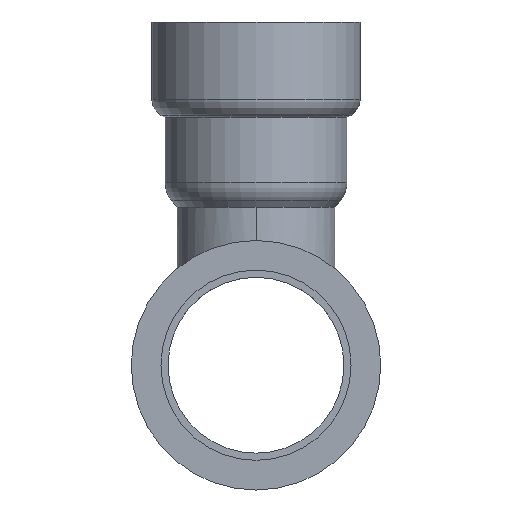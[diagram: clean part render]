
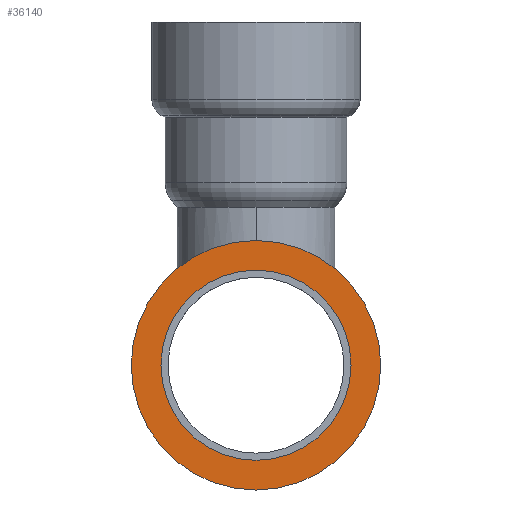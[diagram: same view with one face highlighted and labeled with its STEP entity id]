
A CAD part, left-side view. The second image highlights one B-rep face of the part: STEP entity #36140.
In plain terms, the highlighted planar face has unit normal (-1, 0, 0).
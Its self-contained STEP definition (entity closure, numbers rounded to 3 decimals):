
#35650=CARTESIAN_POINT('',(36.11,61.4,0.));
#35660=VERTEX_POINT('',#35650);
#35750=CARTESIAN_POINT('',(36.11,16.,0.
));
#35760=VERTEX_POINT('',#35750);
#35790=CARTESIAN_POINT('',(36.11,38.7,0.));
#35800=DIRECTION('',(-1.,0.,0.));
#35810=DIRECTION('',(0.,1.,0.));
#35820=AXIS2_PLACEMENT_3D('',#35790,#35800,#35810);
#35830=CIRCLE('',#35820,22.7);
#35840=EDGE_CURVE('',#35760,#35660,#35830,.T.);
#35890=CARTESIAN_POINT('',(36.11,17.7,0.));
#35900=DIRECTION('',(-1.,0.,0.));
#35910=DIRECTION('',(0.,-1.,0.));
#35920=AXIS2_PLACEMENT_3D('',#35890,#35900,#35910);
#35930=PLANE('',#35920);
#35940=CARTESIAN_POINT('',(36.11,38.7,0.));
#35950=DIRECTION('',(-1.,0.,0.));
#35960=DIRECTION('',(0.,1.,0.));
#35970=AXIS2_PLACEMENT_3D('',#35940,#35950,#35960);
#35980=CIRCLE('',#35970,17.3);
#35990=CARTESIAN_POINT('',(36.11,56.,0.));
#36000=VERTEX_POINT('',#35990);
#36010=CARTESIAN_POINT('',(36.11,21.4,0.
));
#36020=VERTEX_POINT('',#36010);
#36030=EDGE_CURVE('',#36000,#36020,#35980,.T.);
#36040=ORIENTED_EDGE('',*,*,#36030,.F.);
#36050=EDGE_CURVE('',#36020,#36000,#35980,.T.);
#36060=ORIENTED_EDGE('',*,*,#36050,.F.);
#36070=EDGE_LOOP('',(#36060,#36040));
#36080=FACE_BOUND('',#36070,.T.);
#36090=EDGE_CURVE('',#35660,#35760,#35830,.T.);
#36100=ORIENTED_EDGE('',*,*,#36090,.T.);
#36110=ORIENTED_EDGE('',*,*,#35840,.T.);
#36120=EDGE_LOOP('',(#36110,#36100));
#36130=FACE_OUTER_BOUND('',#36120,.T.);
#36140=ADVANCED_FACE('',(#36080,#36130),#35930,.T.);
